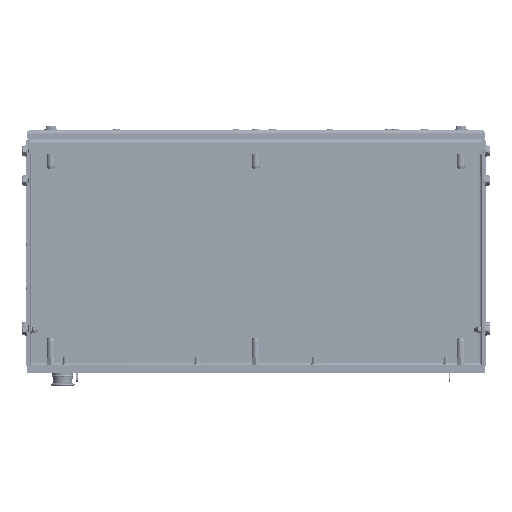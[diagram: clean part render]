
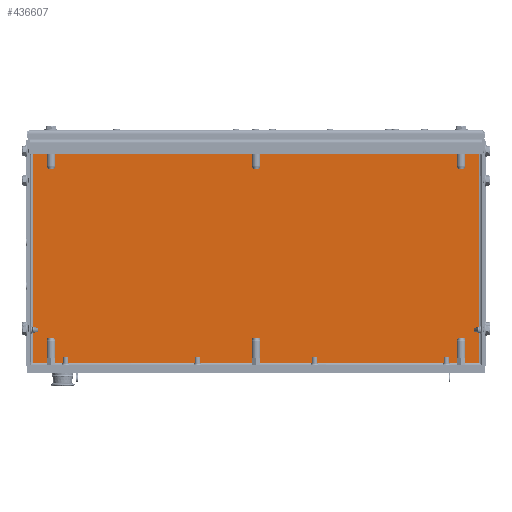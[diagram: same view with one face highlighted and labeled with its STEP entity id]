
A CAD part, front view. The second image highlights one B-rep face of the part: STEP entity #436607.
In plain terms, the highlighted planar face has unit normal (0, -1, 0).
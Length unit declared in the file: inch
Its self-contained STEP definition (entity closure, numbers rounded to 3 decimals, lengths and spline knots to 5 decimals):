
#5866 = FACE_OUTER_BOUND ( 'NONE', #91081, .T. ) ;
#30531 = CARTESIAN_POINT ( 'NONE',  ( 7.622, -0.046, -3.749 ) ) ;
#56743 = VECTOR ( 'NONE', #81997, 39.37008 ) ;
#81997 = DIRECTION ( 'NONE',  ( 0., 0., -1. ) ) ;
#91081 = EDGE_LOOP ( 'NONE', ( #604499, #485517, #564503, #574328 ) ) ;
#127741 = VERTEX_POINT ( 'NONE', #30531 ) ;
#128564 = DIRECTION ( 'NONE',  ( 1., 0., 0. ) ) ;
#180997 = LINE ( 'NONE', #226365, #341766 ) ;
#181177 = AXIS2_PLACEMENT_3D ( 'NONE', #240905, #301660, #724471 ) ;
#226365 = CARTESIAN_POINT ( 'NONE',  ( 7.67416, -0.046, -3.749 ) ) ;
#234567 = VERTEX_POINT ( 'NONE', #396413 ) ;
#240905 = CARTESIAN_POINT ( 'NONE',  ( -7.748, -0.046, -3.875 ) ) ;
#301612 = EDGE_CURVE ( 'NONE', #392301, #234567, #669250, .T. ) ;
#301660 = DIRECTION ( 'NONE',  ( 0., 1., 0. ) ) ;
#306042 = EDGE_CURVE ( 'NONE', #234567, #600905, #337140, .T. ) ;
#315629 = CARTESIAN_POINT ( 'NONE',  ( 7.622, -0.046, 3.749 ) ) ;
#337140 = LINE ( 'NONE', #612187, #639782 ) ;
#341766 = VECTOR ( 'NONE', #596280, 39.37008 ) ;
#374178 = DIRECTION ( 'NONE',  ( 0., 0., 1. ) ) ;
#388964 = EDGE_CURVE ( 'NONE', #600905, #127741, #520129, .T. ) ;
#392301 = VERTEX_POINT ( 'NONE', #567880 ) ;
#396413 = CARTESIAN_POINT ( 'NONE',  ( -7.622, -0.046, 3.749 ) ) ;
#436607 = ADVANCED_FACE ( 'NONE', ( #5866 ), #769670, .F. ) ;
#443891 = CARTESIAN_POINT ( 'NONE',  ( 7.622, -0.046, 3.80116 ) ) ;
#485517 = ORIENTED_EDGE ( 'NONE', *, *, #388964, .F. ) ;
#520129 = LINE ( 'NONE', #443891, #56743 ) ;
#527276 = VECTOR ( 'NONE', #374178, 39.37008 ) ;
#564503 = ORIENTED_EDGE ( 'NONE', *, *, #306042, .F. ) ;
#567880 = CARTESIAN_POINT ( 'NONE',  ( -7.622, -0.046, -3.749 ) ) ;
#574328 = ORIENTED_EDGE ( 'NONE', *, *, #301612, .F. ) ;
#596280 = DIRECTION ( 'NONE',  ( -1., 0., 0. ) ) ;
#600905 = VERTEX_POINT ( 'NONE', #315629 ) ;
#604499 = ORIENTED_EDGE ( 'NONE', *, *, #715358, .F. ) ;
#612187 = CARTESIAN_POINT ( 'NONE',  ( -7.67416, -0.046, 3.749 ) ) ;
#639782 = VECTOR ( 'NONE', #128564, 39.37008 ) ;
#669250 = LINE ( 'NONE', #736177, #527276 ) ;
#715358 = EDGE_CURVE ( 'NONE', #127741, #392301, #180997, .T. ) ;
#724471 = DIRECTION ( 'NONE',  ( 0., 0., 1. ) ) ;
#736177 = CARTESIAN_POINT ( 'NONE',  ( -7.622, -0.046, -3.80116 ) ) ;
#769670 = PLANE ( 'NONE',  #181177 ) ;
